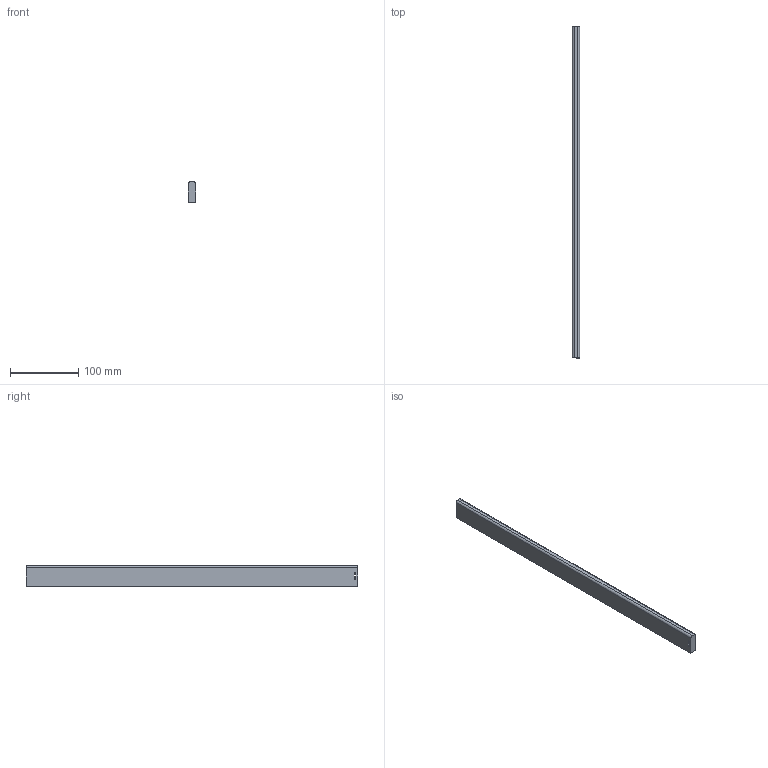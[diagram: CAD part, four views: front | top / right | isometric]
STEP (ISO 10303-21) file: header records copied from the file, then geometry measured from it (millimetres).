
FILE_DESCRIPTION (( 'STEP AP214' ), '1' );
FILE_NAME ('_Seitenreling_S760605500_RL485,5.step', '2010-09-06T14:51:27', ( 'grass' ), ( '' ), 'SwSTEP 2.0', 'SolidWorks 2010', '' );
FILE_SCHEMA (( 'AUTOMOTIVE_DESIGN' ));
Length unit declared in the file: millimetre
Products named in the file (1): _Seitenreling_S760605500_RL485,5
Bounding box: 10.5 x 485.5 x 30 mm (x, y, z)
Volume: 150818.4 mm3; surface area: 38909.7 mm2
Topology: 1 solids, 1 shells, 12 faces, 30 edges, 20 vertices
Faces by surface type: plane 8, cylinder 4
Entity records: 400 total; most frequent: DIRECTION 64, CARTESIAN_POINT 63, ORIENTED_EDGE 60, EDGE_CURVE 30, VECTOR 22, LINE 22, AXIS2_PLACEMENT_3D 21, VERTEX_POINT 20
